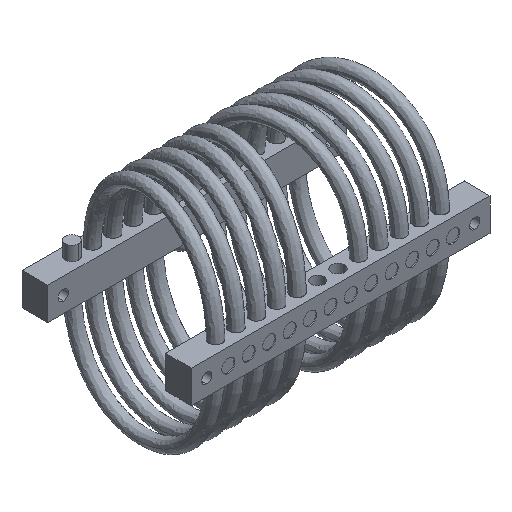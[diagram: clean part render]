
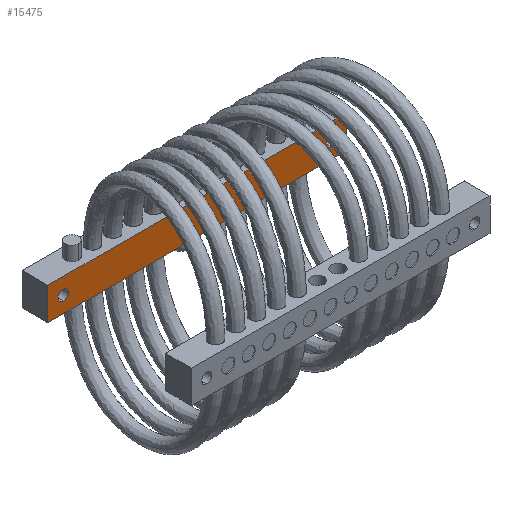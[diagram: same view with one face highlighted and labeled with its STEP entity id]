
A CAD part, isometric view. The second image highlights one B-rep face of the part: STEP entity #15475.
In plain terms, the highlighted planar face has unit normal (0, -1, 0).
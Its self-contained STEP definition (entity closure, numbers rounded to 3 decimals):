
#926 = EDGE_LOOP ( 'NONE', ( #13343, #17336 ) ) ;
#929 = DIRECTION ( 'NONE',  ( 0., 1., 0. ) ) ;
#1222 = DIRECTION ( 'NONE',  ( 0., 1., 0. ) ) ;
#1260 = CIRCLE ( 'NONE', #2992, 2.5 ) ;
#2095 = ORIENTED_EDGE ( 'NONE', *, *, #11429, .T. ) ;
#2146 = ORIENTED_EDGE ( 'NONE', *, *, #19144, .T. ) ;
#2253 = ORIENTED_EDGE ( 'NONE', *, *, #12466, .T. ) ;
#2514 = CIRCLE ( 'NONE', #2700, 2.5 ) ;
#2700 = AXIS2_PLACEMENT_3D ( 'NONE', #11732, #929, #13526 ) ;
#2731 = CARTESIAN_POINT ( 'NONE',  ( 73.05, 28.8, 7.95 ) ) ;
#2820 = DIRECTION ( 'NONE',  ( 0., 0., -1. ) ) ;
#2992 = AXIS2_PLACEMENT_3D ( 'NONE', #16884, #6110, #18702 ) ;
#3221 = CIRCLE ( 'NONE', #13221, 2.5 ) ;
#3877 = CARTESIAN_POINT ( 'NONE',  ( 73.05, 28.8, -7.95 ) ) ;
#4045 = LINE ( 'NONE', #10031, #22699 ) ;
#4372 = CARTESIAN_POINT ( 'NONE',  ( 65.55, 28.8, -2.5 ) ) ;
#4459 = LINE ( 'NONE', #3877, #12888 ) ;
#4640 = DIRECTION ( 'NONE',  ( 0., 1., 0. ) ) ;
#4856 = CARTESIAN_POINT ( 'NONE',  ( -73.05, 28.8, -7.95 ) ) ;
#5118 = VERTEX_POINT ( 'NONE', #4856 ) ;
#5316 = FACE_BOUND ( 'NONE', #7407, .T. ) ;
#5367 = VECTOR ( 'NONE', #15527, 1000. ) ;
#5401 = VERTEX_POINT ( 'NONE', #16305 ) ;
#6110 = DIRECTION ( 'NONE',  ( 0., 1., 0. ) ) ;
#6442 = CARTESIAN_POINT ( 'NONE',  ( 73.05, 28.8, 7.95 ) ) ;
#6855 = VERTEX_POINT ( 'NONE', #4372 ) ;
#6868 = VERTEX_POINT ( 'NONE', #6442 ) ;
#7035 = ORIENTED_EDGE ( 'NONE', *, *, #15815, .T. ) ;
#7407 = EDGE_LOOP ( 'NONE', ( #2146, #2095 ) ) ;
#7673 = EDGE_CURVE ( 'NONE', #6868, #5401, #4045, .T. ) ;
#7955 = VERTEX_POINT ( 'NONE', #10814 ) ;
#9244 = AXIS2_PLACEMENT_3D ( 'NONE', #23192, #23437, #12573 ) ;
#9563 = LINE ( 'NONE', #2731, #5367 ) ;
#9758 = DIRECTION ( 'NONE',  ( 0., 0., -1. ) ) ;
#10031 = CARTESIAN_POINT ( 'NONE',  ( 73.05, 28.8, -7.95 ) ) ;
#10814 = CARTESIAN_POINT ( 'NONE',  ( -65.55, 28.8, -2.5 ) ) ;
#11205 = FACE_BOUND ( 'NONE', #926, .T. ) ;
#11429 = EDGE_CURVE ( 'NONE', #7955, #22455, #2514, .T. ) ;
#11483 = LINE ( 'NONE', #13117, #16299 ) ;
#11732 = CARTESIAN_POINT ( 'NONE',  ( -65.55, 28.8, 0. ) ) ;
#11978 = CARTESIAN_POINT ( 'NONE',  ( 65.55, 28.8, 2.5 ) ) ;
#12013 = CARTESIAN_POINT ( 'NONE',  ( -65.55, 28.8, 0. ) ) ;
#12466 = EDGE_CURVE ( 'NONE', #6868, #17525, #9563, .T. ) ;
#12573 = DIRECTION ( 'NONE',  ( 0., 0., 1. ) ) ;
#12655 = CARTESIAN_POINT ( 'NONE',  ( -65.55, 28.8, 2.5 ) ) ;
#12681 = ORIENTED_EDGE ( 'NONE', *, *, #14888, .F. ) ;
#12888 = VECTOR ( 'NONE', #14650, 1000. ) ;
#13117 = CARTESIAN_POINT ( 'NONE',  ( -73.05, 28.8, -7.95 ) ) ;
#13221 = AXIS2_PLACEMENT_3D ( 'NONE', #12013, #1222, #13804 ) ;
#13343 = ORIENTED_EDGE ( 'NONE', *, *, #20040, .T. ) ;
#13526 = DIRECTION ( 'NONE',  ( 0., 0., 1. ) ) ;
#13804 = DIRECTION ( 'NONE',  ( 0., 0., 1. ) ) ;
#14482 = CIRCLE ( 'NONE', #22037, 2.5 ) ;
#14650 = DIRECTION ( 'NONE',  ( -1., 0., 0. ) ) ;
#14656 = EDGE_LOOP ( 'NONE', ( #7035, #12681, #18487, #2253 ) ) ;
#14852 = FACE_OUTER_BOUND ( 'NONE', #14656, .T. ) ;
#14888 = EDGE_CURVE ( 'NONE', #5401, #5118, #4459, .T. ) ;
#15434 = CARTESIAN_POINT ( 'NONE',  ( 65.55, 28.8, 0. ) ) ;
#15475 = ADVANCED_FACE ( 'NONE', ( #11205, #5316, #14852 ), #21622, .F. ) ;
#15527 = DIRECTION ( 'NONE',  ( -1., 0., 0. ) ) ;
#15815 = EDGE_CURVE ( 'NONE', #17525, #5118, #11483, .T. ) ;
#16299 = VECTOR ( 'NONE', #9758, 1000. ) ;
#16305 = CARTESIAN_POINT ( 'NONE',  ( 73.05, 28.8, -7.95 ) ) ;
#16686 = CARTESIAN_POINT ( 'NONE',  ( -73.05, 28.8, 7.95 ) ) ;
#16884 = CARTESIAN_POINT ( 'NONE',  ( 65.55, 28.8, 0. ) ) ;
#17251 = DIRECTION ( 'NONE',  ( 0., 0., 1. ) ) ;
#17336 = ORIENTED_EDGE ( 'NONE', *, *, #20900, .T. ) ;
#17525 = VERTEX_POINT ( 'NONE', #16686 ) ;
#18487 = ORIENTED_EDGE ( 'NONE', *, *, #7673, .F. ) ;
#18702 = DIRECTION ( 'NONE',  ( 0., 0., 1. ) ) ;
#19144 = EDGE_CURVE ( 'NONE', #22455, #7955, #3221, .T. ) ;
#20040 = EDGE_CURVE ( 'NONE', #21205, #6855, #14482, .T. ) ;
#20900 = EDGE_CURVE ( 'NONE', #6855, #21205, #1260, .T. ) ;
#21205 = VERTEX_POINT ( 'NONE', #11978 ) ;
#21622 = PLANE ( 'NONE',  #9244 ) ;
#22037 = AXIS2_PLACEMENT_3D ( 'NONE', #15434, #4640, #17251 ) ;
#22455 = VERTEX_POINT ( 'NONE', #12655 ) ;
#22699 = VECTOR ( 'NONE', #2820, 1000. ) ;
#23192 = CARTESIAN_POINT ( 'NONE',  ( 73.05, 28.8, -7.95 ) ) ;
#23437 = DIRECTION ( 'NONE',  ( 0., 1., 0. ) ) ;
